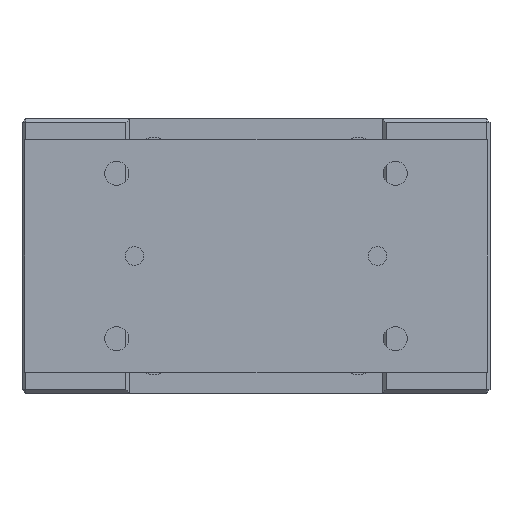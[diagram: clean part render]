
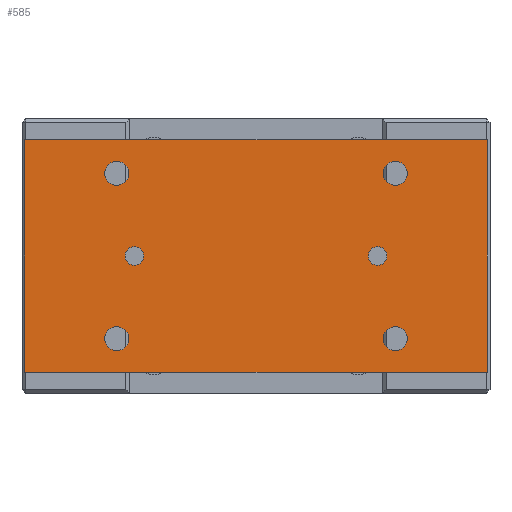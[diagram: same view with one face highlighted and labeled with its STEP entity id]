
A CAD part, left-side view. The second image highlights one B-rep face of the part: STEP entity #585.
In plain terms, the highlighted planar face has unit normal (-1, 0, 0).
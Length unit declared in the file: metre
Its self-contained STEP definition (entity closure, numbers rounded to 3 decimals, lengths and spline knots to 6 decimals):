
#585 = ADVANCED_FACE( '', ( #1343, #1344, #1345, #1346, #1347, #1348, #1349 ), #1350, .T. );
#1343 = FACE_BOUND( '', #2233, .T. );
#1344 = FACE_BOUND( '', #2234, .T. );
#1345 = FACE_BOUND( '', #2235, .T. );
#1346 = FACE_BOUND( '', #2236, .T. );
#1347 = FACE_BOUND( '', #2237, .T. );
#1348 = FACE_BOUND( '', #2238, .T. );
#1349 = FACE_OUTER_BOUND( '', #2239, .T. );
#1350 = PLANE( '', #2240 );
#2233 = EDGE_LOOP( '', ( #3702 ) );
#2234 = EDGE_LOOP( '', ( #3703 ) );
#2235 = EDGE_LOOP( '', ( #3704 ) );
#2236 = EDGE_LOOP( '', ( #3705 ) );
#2237 = EDGE_LOOP( '', ( #3706 ) );
#2238 = EDGE_LOOP( '', ( #3707 ) );
#2239 = EDGE_LOOP( '', ( #3708, #3709, #3710, #3711 ) );
#2240 = AXIS2_PLACEMENT_3D( '', #3712, #3713, #3714 );
#3702 = ORIENTED_EDGE( '', *, *, #4789, .F. );
#3703 = ORIENTED_EDGE( '', *, *, #4683, .T. );
#3704 = ORIENTED_EDGE( '', *, *, #4582, .F. );
#3705 = ORIENTED_EDGE( '', *, *, #4700, .F. );
#3706 = ORIENTED_EDGE( '', *, *, #4292, .F. );
#3707 = ORIENTED_EDGE( '', *, *, #4790, .F. );
#3708 = ORIENTED_EDGE( '', *, *, #4791, .T. );
#3709 = ORIENTED_EDGE( '', *, *, #4368, .T. );
#3710 = ORIENTED_EDGE( '', *, *, #4792, .T. );
#3711 = ORIENTED_EDGE( '', *, *, #4711, .T. );
#3712 = CARTESIAN_POINT( '', ( -0.143, -0.1245, -0.0115 ) );
#3713 = DIRECTION( '', ( -1., 0., 0. ) );
#3714 = DIRECTION( '', ( 0., 0., 1. ) );
#4292 = EDGE_CURVE( '', #4939, #4939, #4940, .T. );
#4368 = EDGE_CURVE( '', #5072, #5070, #5073, .T. );
#4582 = EDGE_CURVE( '', #5407, #5407, #5408, .T. );
#4683 = EDGE_CURVE( '', #5551, #5551, #5552, .T. );
#4700 = EDGE_CURVE( '', #5575, #5575, #5576, .T. );
#4711 = EDGE_CURVE( '', #5592, #5590, #5593, .T. );
#4789 = EDGE_CURVE( '', #5694, #5694, #5695, .T. );
#4790 = EDGE_CURVE( '', #5696, #5696, #5697, .T. );
#4791 = EDGE_CURVE( '', #5590, #5072, #5698, .T. );
#4792 = EDGE_CURVE( '', #5070, #5592, #5699, .T. );
#4939 = VERTEX_POINT( '', #5873 );
#4940 = CIRCLE( '', #5874, 0.0065 );
#5070 = VERTEX_POINT( '', #6114 );
#5072 = VERTEX_POINT( '', #6117 );
#5073 = LINE( '', #6118, #6119 );
#5407 = VERTEX_POINT( '', #6658 );
#5408 = CIRCLE( '', #6659, 0.0065 );
#5551 = VERTEX_POINT( '', #6869 );
#5552 = CIRCLE( '', #6870, 0.005 );
#5575 = VERTEX_POINT( '', #6895 );
#5576 = CIRCLE( '', #6896, 0.0065 );
#5590 = VERTEX_POINT( '', #6913 );
#5592 = VERTEX_POINT( '', #6916 );
#5593 = LINE( '', #6917, #6918 );
#5694 = VERTEX_POINT( '', #7080 );
#5695 = CIRCLE( '', #7081, 0.005 );
#5696 = VERTEX_POINT( '', #7082 );
#5697 = CIRCLE( '', #7083, 0.0065 );
#5698 = LINE( '', #7084, #7085 );
#5699 = LINE( '', #7086, #7087 );
#5873 = CARTESIAN_POINT( '', ( -0.143, -0.075, -0.023 ) );
#5874 = AXIS2_PLACEMENT_3D( '', #7298, #7299, #7300 );
#6114 = CARTESIAN_POINT( '', ( -0.143, 0.1245, -0.0115 ) );
#6117 = CARTESIAN_POINT( '', ( -0.143, -0.1245, -0.0115 ) );
#6118 = CARTESIAN_POINT( '', ( -0.143, -0.1245, -0.0115 ) );
#6119 = VECTOR( '', #7376, 1. );
#6658 = CARTESIAN_POINT( '', ( -0.143, -0.075, -0.112 ) );
#6659 = AXIS2_PLACEMENT_3D( '', #7615, #7616, #7617 );
#6869 = CARTESIAN_POINT( '', ( -0.143, 0.0705, -0.074 ) );
#6870 = AXIS2_PLACEMENT_3D( '', #7742, #7743, #7744 );
#6895 = CARTESIAN_POINT( '', ( -0.143, 0.075, -0.112 ) );
#6896 = AXIS2_PLACEMENT_3D( '', #7765, #7766, #7767 );
#6913 = CARTESIAN_POINT( '', ( -0.143, -0.1245, -0.1365 ) );
#6916 = CARTESIAN_POINT( '', ( -0.143, 0.1245, -0.1365 ) );
#6917 = CARTESIAN_POINT( '', ( -0.143, 0.1245, -0.1365 ) );
#6918 = VECTOR( '', #7778, 1. );
#7080 = CARTESIAN_POINT( '', ( -0.143, -0.0705, -0.074 ) );
#7081 = AXIS2_PLACEMENT_3D( '', #7852, #7853, #7854 );
#7082 = CARTESIAN_POINT( '', ( -0.143, 0.075, -0.023 ) );
#7083 = AXIS2_PLACEMENT_3D( '', #7855, #7856, #7857 );
#7084 = CARTESIAN_POINT( '', ( -0.143, -0.1245, -0.1365 ) );
#7085 = VECTOR( '', #7858, 1. );
#7086 = CARTESIAN_POINT( '', ( -0.143, 0.1245, -0.0115 ) );
#7087 = VECTOR( '', #7859, 1. );
#7298 = CARTESIAN_POINT( '', ( -0.143, -0.075, -0.0295 ) );
#7299 = DIRECTION( '', ( -1., 0., 0. ) );
#7300 = DIRECTION( '', ( 0., 0., 1. ) );
#7376 = DIRECTION( '', ( 0., 1., 0. ) );
#7615 = CARTESIAN_POINT( '', ( -0.143, -0.075, -0.1185 ) );
#7616 = DIRECTION( '', ( -1., 0., 0. ) );
#7617 = DIRECTION( '', ( 0., 0., 1. ) );
#7742 = CARTESIAN_POINT( '', ( -0.143, 0.0655, -0.074 ) );
#7743 = DIRECTION( '', ( 1., 0., 0. ) );
#7744 = DIRECTION( '', ( 0., 1., 0. ) );
#7765 = CARTESIAN_POINT( '', ( -0.143, 0.075, -0.1185 ) );
#7766 = DIRECTION( '', ( -1., 0., 0. ) );
#7767 = DIRECTION( '', ( 0., 0., 1. ) );
#7778 = DIRECTION( '', ( 0., -1., 0. ) );
#7852 = CARTESIAN_POINT( '', ( -0.143, -0.0655, -0.074 ) );
#7853 = DIRECTION( '', ( -1., 0., 0. ) );
#7854 = DIRECTION( '', ( 0., -1., 0. ) );
#7855 = CARTESIAN_POINT( '', ( -0.143, 0.075, -0.0295 ) );
#7856 = DIRECTION( '', ( -1., 0., 0. ) );
#7857 = DIRECTION( '', ( 0., 0., 1. ) );
#7858 = DIRECTION( '', ( 0., 0., 1. ) );
#7859 = DIRECTION( '', ( 0., 0., -1. ) );
